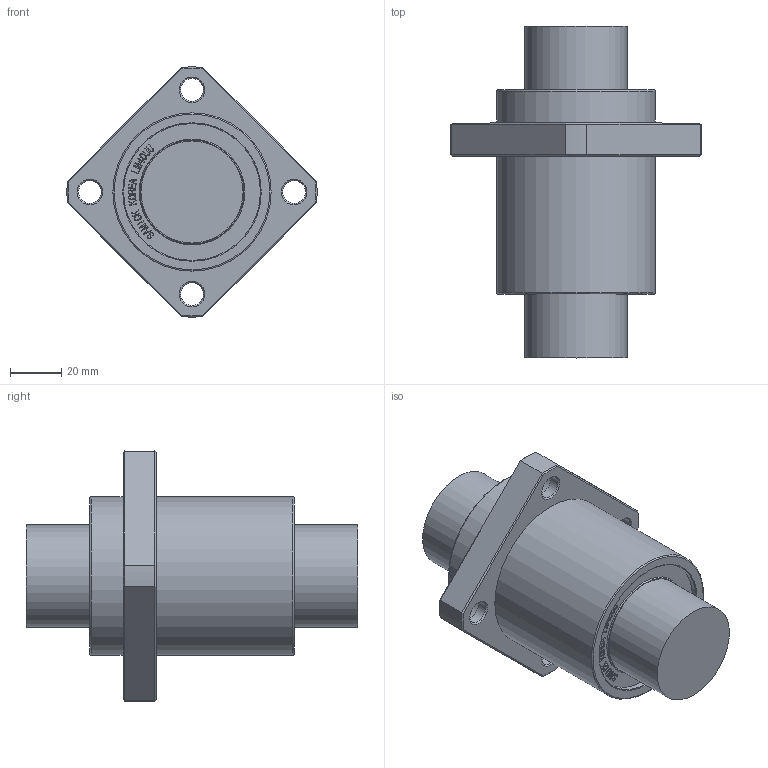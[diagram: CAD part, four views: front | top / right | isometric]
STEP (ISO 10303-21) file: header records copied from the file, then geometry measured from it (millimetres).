
FILE_DESCRIPTION(/* description */ (''),/* implementation_level */ '2;1');
FILE_NAME(/* name */ 'W:\(01) 2024년 홈페이지 CAD파일 최신화\LMEKP\IPT\LMEKP40UU.stp',/* time_stamp */ '2025-01-25T12:55:59+09:00',/* author */ ('서우현'),/* organization */ (''),/* preprocessor_version */ 'ST-DEVELOPER v17.2',/* originating_system */ 'Autodesk Inventor 2019',/* authorisation */ '');
FILE_SCHEMA (('AUTOMOTIVE_DESIGN { 1 0 10303 214 3 1 1 }'));
Length unit declared in the file: millimetre
Products named in the file (1): LM5
Bounding box: 97.96 x 130 x 97.96 mm (x, y, z)
Volume: 326255.4 mm3; surface area: 36624.5 mm2
Topology: 1 solids, 1 shells, 866 faces, 2418 edges, 1612 vertices
Faces by surface type: bspline 572, plane 254, cone 20, cylinder 18, torus 2
Full cylindrical faces by diameter (mm): 9 x4, 14 x4, 40 x2, 53.65 x2, 62 x2
Entity records: 29564 total; most frequent: CARTESIAN_POINT 10761, ORIENTED_EDGE 4836, EDGE_CURVE 2418, DIRECTION 1938, VERTEX_POINT 1612, LINE 1168, VECTOR 1168, B_SPLINE_CURVE_WITH_KNOTS 1144
